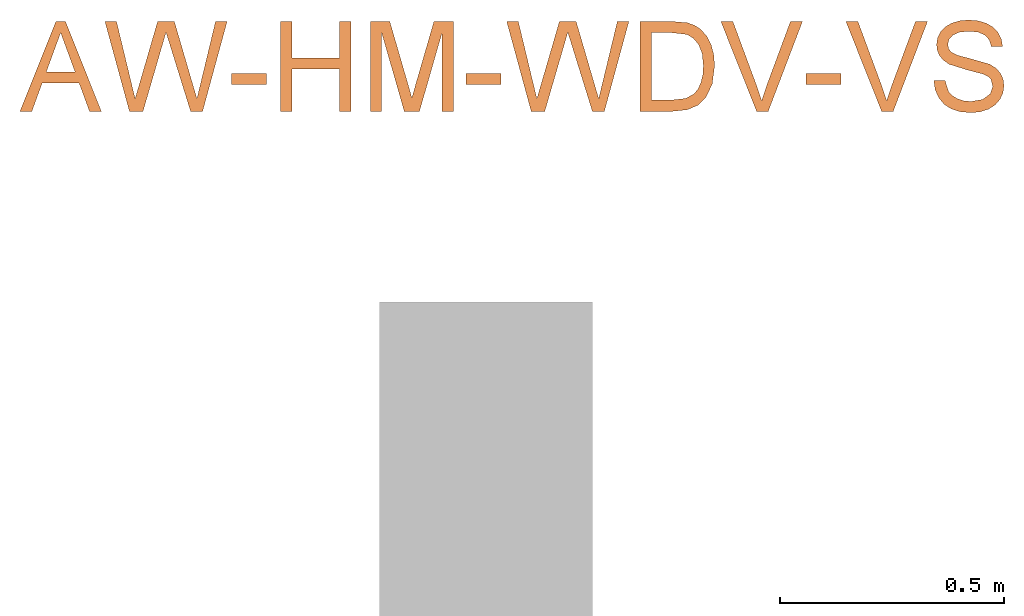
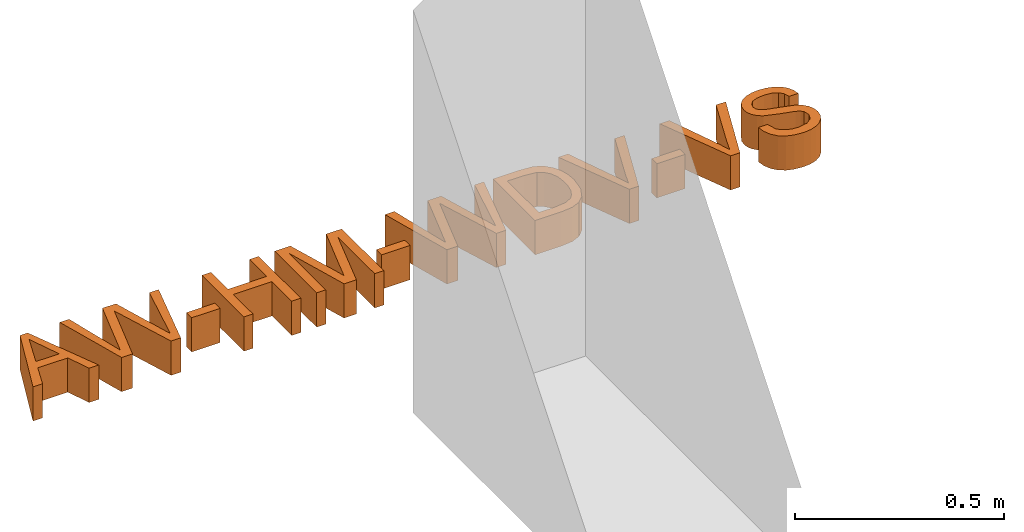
# Not in any storey, part 2 of 2: 1 proxy.
"""IFC2X3 model written with IfcOpenShell, lengths in metres."""

import ifcopenshell
import ifcopenshell.guid

model = None  # the IFC model being written
_history = None  # IfcOwnerHistory: only IFC2X3 demands one
_inside = {}  # id of a spatial element -> (the spatial element, [elements in it])
_under = {}  # id of a project, library or spatial element -> (it, [spatial elements below it])
_declared = {}  # id of a project -> (the project, [libraries it declares])
_typed = {}  # id of a type object -> (the type object, [elements of that type])
_made_of = {}  # id of a material, layer set ... -> (it, [elements and type objects made of it])


def new_model(schema):
    """Start an empty IFC model of exactly this schema.

    Asked for "IFC4X3", IfcOpenShell would pick the latest addendum, in which some entities
    have other attributes; the version numbers below select the first issue.
    IFC2X3 requires an IfcOwnerHistory on every rooted entity: one is made here for all.
    """
    global model, _history
    if schema == "IFC4X3":
        model = ifcopenshell.file(schema_version=(4, 3, 0, 0))
    else:
        model = ifcopenshell.file(schema=schema)
    _inside.clear()
    _under.clear()
    _declared.clear()
    _typed.clear()
    _made_of.clear()
    _history = None
    if model.schema == "IFC2X3":
        org = make("IfcOrganization", Name="unknown")
        user = make(
            "IfcPersonAndOrganization",
            ThePerson=make("IfcPerson", FamilyName="unknown"),
            TheOrganization=org,
        )
        app = make(
            "IfcApplication",
            ApplicationDeveloper=org,
            Version="unknown",
            ApplicationFullName="unknown",
            ApplicationIdentifier="unknown",
        )
        _history = make(
            "IfcOwnerHistory",
            OwningUser=user,
            OwningApplication=app,
            ChangeAction="ADDED",
            CreationDate=0,
        )
    return model


def make(cls, **values):
    """One entity of the class cls with the attributes given. An attribute that is None is left unset."""
    return model.create_entity(
        cls, **{name: value for name, value in values.items() if value is not None}
    )


def entity(cls, *values):
    """Any entity or typed value of the class cls, its attributes in the order of the schema. None: left unset."""
    e = model.create_entity(cls)
    for i, value in enumerate(values):
        if value is not None:
            e[i] = value
    return e


def rooted(cls, **values):
    """An entity with a GlobalId (a new one), such as an element, a storey or a relation."""
    return make(cls, GlobalId=ifcopenshell.guid.new(), OwnerHistory=_history, **values)


def si_unit(unit_type, name, prefix=None):
    """IfcSIUnit, for example si_unit("LENGTHUNIT", "METRE", prefix="MILLI")."""
    return make("IfcSIUnit", UnitType=unit_type, Prefix=prefix, Name=name)


def converted_unit(unit_type, name, factor, base, dimensions=None, offset=None):
    """IfcConversionBasedUnit, such as the inch: factor (a typed value) times the base unit."""
    return make(
        "IfcConversionBasedUnit"
        if offset is None
        else "IfcConversionBasedUnitWithOffset",
        ConversionOffset=offset,
        Dimensions=None
        if dimensions is None
        else entity("IfcDimensionalExponents", *dimensions),
        UnitType=unit_type,
        Name=name,
        ConversionFactor=make(
            "IfcMeasureWithUnit", ValueComponent=factor, UnitComponent=base
        ),
    )


def derived_unit(unit_type, elements):
    """IfcDerivedUnit: a product of units, each with its exponent."""
    return make(
        "IfcDerivedUnit",
        Elements=[
            make("IfcDerivedUnitElement", Unit=unit, Exponent=power)
            for unit, power in elements
        ],
        UnitType=unit_type,
    )


def assignment(units):
    """IfcUnitAssignment: the units of a project."""
    return None if units is None else make("IfcUnitAssignment", Units=units)


def point(xyz):
    """IfcCartesianPoint."""
    return None if xyz is None else make("IfcCartesianPoint", Coordinates=xyz)


def direction(xyz):
    """IfcDirection."""
    return None if xyz is None else make("IfcDirection", DirectionRatios=xyz)


def frame(location, z_axis=None, x_axis=None):
    """IfcAxis2Placement3D, a coordinate frame: its origin and axes. An axis left out is left unset."""
    return make(
        "IfcAxis2Placement3D",
        Location=point(location),
        Axis=direction(z_axis),
        RefDirection=direction(x_axis),
    )


def frame_2d(location, x_axis=None):
    """IfcAxis2Placement2D, a coordinate frame in the plane: its origin and x axis."""
    return make(
        "IfcAxis2Placement2D", Location=point(location), RefDirection=direction(x_axis)
    )


def origin():
    """The frame at (0, 0, 0) with its axes left unset."""
    return frame((0.0, 0.0, 0.0))


def place(relative_to, where):
    """IfcLocalPlacement: puts the frame where relative to a parent placement (None: the world)."""
    return make(
        "IfcLocalPlacement", PlacementRelTo=relative_to, RelativePlacement=where
    )


def context(
    kind, dimensions, precision=None, world=None, true_north=None, identifier=None
):
    """IfcGeometricRepresentationContext, for example the 3D "Model" context."""
    return make(
        "IfcGeometricRepresentationContext",
        ContextIdentifier=identifier,
        ContextType=kind,
        CoordinateSpaceDimension=dimensions,
        Precision=precision,
        WorldCoordinateSystem=world,
        TrueNorth=true_north,
    )


def subcontext(parent, identifier, kind, view, scale=None):
    """IfcGeometricRepresentationSubContext, for example "Body" below "Model"."""
    return make(
        "IfcGeometricRepresentationSubContext",
        ContextIdentifier=identifier,
        ContextType=kind,
        ParentContext=parent,
        TargetScale=scale,
        TargetView=view,
    )


def project(units=None, contexts=None):
    """IfcProject with its units and contexts."""
    return rooted(
        "IfcProject",
        Name="project",
        RepresentationContexts=contexts,
        UnitsInContext=assignment(units),
    )


def spatial(cls, under=None, at=None, **own):
    """A site, building, storey or space (cls), placed at a placement, below another one or the project."""
    s = rooted(cls, ObjectPlacement=at, **own)
    if under is not None:
        _under.setdefault(under.id(), (under, []))[1].append(s)
    return s


def polyline(points):
    """IfcPolyline through the points."""
    return make("IfcPolyline", Points=[point(p) for p in points])


def profile(cls, at=None, kind="AREA", **sizes):
    """A parametric profile (cls). Its sizes go by their IFC names, for example OverallWidth=200.0."""
    return make(cls, ProfileType=kind, Position=at, **sizes)


def rectangle(**sizes):
    """IfcRectangleProfileDef."""
    return profile("IfcRectangleProfileDef", **sizes)


def outline(outer, holes=None, kind="AREA"):
    """IfcArbitraryClosedProfileDef: a profile drawn as a closed curve; with holes, ...WithVoids."""
    if holes is None:
        return make("IfcArbitraryClosedProfileDef", ProfileType=kind, OuterCurve=outer)
    return make(
        "IfcArbitraryProfileDefWithVoids",
        ProfileType=kind,
        OuterCurve=outer,
        InnerCurves=holes,
    )


def extrude(swept, where, along, depth):
    """IfcExtrudedAreaSolid: the profile swept, set in the frame where, extruded along a direction by depth."""
    return make(
        "IfcExtrudedAreaSolid",
        SweptArea=swept,
        Position=where,
        ExtrudedDirection=direction(along),
        Depth=depth,
    )


def shape(context_of_items, identifier, shape_type, items):
    """IfcShapeRepresentation: the items that make up one representation, for example the "Body"."""
    return make(
        "IfcShapeRepresentation",
        ContextOfItems=context_of_items,
        RepresentationIdentifier=identifier,
        RepresentationType=shape_type,
        Items=items,
    )


def made_of(thing, what):
    """Note that an element or type object is made of a material, layer set ...; save() writes the relation."""
    if what is not None:
        _made_of.setdefault(what.id(), (what, []))[1].append(thing)
    return thing


def type_object(cls, material=None, **own):
    """A type object (cls), such as IfcWallType, which elements share."""
    return made_of(rooted(cls, **own), material)


def element(
    cls,
    number,
    at=None,
    inside=None,
    cuts=None,
    type_object=None,
    material=None,
    context=None,
    identifier="Body",
    shape_type=None,
    held_by="IfcProductDefinitionShape",
    body=None,
    shapes=None,
    **own,
):
    """One element of the class cls, such as IfcWall. Its Tag is "e" and its number.

    at: its placement. inside: the storey or other place that contains it. cuts: it is an
    opening in that element (IfcRelVoidsElement). A single representation is given by context,
    identifier, shape_type and body (its items); several are given by shapes. held_by: the class
    of the entity that holds the representations. save() writes the other relations.
    """
    e = rooted(cls, Tag="e%d" % number, ObjectPlacement=at, **own)
    if body is not None:
        shapes = [shape(context, identifier, shape_type, body)]
    if shapes is not None:
        e.Representation = make(held_by, Representations=shapes)
    if inside is not None:
        _inside.setdefault(inside.id(), (inside, []))[1].append(e)
    if cuts is not None:
        rooted(
            "IfcRelVoidsElement", RelatingBuildingElement=cuts, RelatedOpeningElement=e
        )
    if type_object is not None:
        _typed.setdefault(type_object.id(), (type_object, []))[1].append(e)
    return made_of(e, material)


def aggregate(whole, parts):
    """IfcRelAggregates: a whole, such as a stair, and the parts it consists of."""
    return rooted("IfcRelAggregates", RelatingObject=whole, RelatedObjects=parts)


def save(model, path):
    """Write the relations noted so far, then the file.

    IfcRelAggregates (storeys below a building ...), IfcRelContainedInSpatialStructure (elements
    in a storey), IfcRelDefinesByType, IfcRelAssociatesMaterial and IfcRelDeclares: one each for
    every whole, place, type object, material and project.
    """
    for whole, parts in _under.values():
        aggregate(whole, parts)
    for where, things in _inside.values():
        rooted(
            "IfcRelContainedInSpatialStructure",
            RelatedElements=things,
            RelatingStructure=where,
        )
    for kind, things in _typed.values():
        rooted("IfcRelDefinesByType", RelatedObjects=things, RelatingType=kind)
    for what, things in _made_of.values():
        rooted("IfcRelAssociatesMaterial", RelatedObjects=things, RelatingMaterial=what)
    for by, libraries in _declared.values():
        rooted("IfcRelDeclares", RelatingContext=by, RelatedDefinitions=libraries)
    model.write(path)


model = new_model("IFC2X3")

# Units and contexts
model_context = context("Model", 3, precision=1e-05, world=origin(), true_north=direction((6.123031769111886e-17, 1.0)))
body_context = subcontext(model_context, "Body", "Model", "MODEL_VIEW")
ifc_project = project(units=[si_unit("LENGTHUNIT", "METRE"), si_unit("AREAUNIT", "SQUARE_METRE"), si_unit("VOLUMEUNIT", "CUBIC_METRE"), converted_unit("PLANEANGLEUNIT", "DEGREE", entity("IfcRatioMeasure", 0.017453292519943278), si_unit("PLANEANGLEUNIT", "RADIAN"), dimensions=[0, 0, 0, 0, 0, 0, 0]), si_unit("MASSUNIT", "GRAM", prefix="KILO"), derived_unit("MASSDENSITYUNIT", [(si_unit("MASSUNIT", "GRAM", prefix="KILO"), 1), (si_unit("LENGTHUNIT", "METRE"), -3)]), derived_unit("MOMENTOFINERTIAUNIT", [(si_unit("LENGTHUNIT", "METRE"), 4)]), si_unit("TIMEUNIT", "SECOND"), si_unit("FREQUENCYUNIT", "HERTZ"), si_unit("THERMODYNAMICTEMPERATUREUNIT", "DEGREE_CELSIUS"), derived_unit("THERMALTRANSMITTANCEUNIT", [(si_unit("MASSUNIT", "GRAM", prefix="KILO"), 1), (si_unit("THERMODYNAMICTEMPERATUREUNIT", "KELVIN"), -1), (si_unit("TIMEUNIT", "SECOND"), -3)]), derived_unit("VOLUMETRICFLOWRATEUNIT", [(si_unit("LENGTHUNIT", "METRE"), 3), (si_unit("TIMEUNIT", "SECOND"), -1)]), derived_unit("MASSFLOWRATEUNIT", [(si_unit("MASSUNIT", "GRAM", prefix="KILO"), 1), (si_unit("TIMEUNIT", "SECOND"), -1)]), derived_unit("ROTATIONALFREQUENCYUNIT", [(si_unit("TIMEUNIT", "SECOND"), -1)]), si_unit("ELECTRICCURRENTUNIT", "AMPERE"), si_unit("ELECTRICVOLTAGEUNIT", "VOLT"), si_unit("POWERUNIT", "WATT"), si_unit("FORCEUNIT", "NEWTON", prefix="KILO"), si_unit("ILLUMINANCEUNIT", "LUX"), si_unit("LUMINOUSFLUXUNIT", "LUMEN"), si_unit("LUMINOUSINTENSITYUNIT", "CANDELA"), derived_unit("USERDEFINED", [(si_unit("MASSUNIT", "GRAM", prefix="KILO"), -1), (si_unit("LENGTHUNIT", "METRE"), -2), (si_unit("TIMEUNIT", "SECOND"), 3), (si_unit("LUMINOUSFLUXUNIT", "LUMEN"), 1)]), derived_unit("SOUNDPOWERUNIT", [(si_unit("MASSUNIT", "GRAM", prefix="KILO"), 1), (si_unit("LENGTHUNIT", "METRE"), 2), (si_unit("TIMEUNIT", "SECOND"), -3)]), derived_unit("SOUNDPRESSUREUNIT", [(si_unit("MASSUNIT", "GRAM", prefix="KILO"), 1), (si_unit("LENGTHUNIT", "METRE"), -1), (si_unit("TIMEUNIT", "SECOND"), -2)]), derived_unit("LINEARVELOCITYUNIT", [(si_unit("LENGTHUNIT", "METRE"), 1), (si_unit("TIMEUNIT", "SECOND"), -1)]), si_unit("PRESSUREUNIT", "PASCAL"), derived_unit("USERDEFINED", [(si_unit("LENGTHUNIT", "METRE"), -2), (si_unit("MASSUNIT", "GRAM", prefix="KILO"), 1), (si_unit("TIMEUNIT", "SECOND"), -2)]), derived_unit("LINEARFORCEUNIT", [(si_unit("MASSUNIT", "GRAM", prefix="KILO"), 1), (si_unit("LENGTHUNIT", "METRE"), 1), (si_unit("TIMEUNIT", "SECOND"), -2), (si_unit("LENGTHUNIT", "METRE"), -1)]), derived_unit("PLANARFORCEUNIT", [(si_unit("MASSUNIT", "GRAM", prefix="KILO"), 1), (si_unit("LENGTHUNIT", "METRE"), 1), (si_unit("TIMEUNIT", "SECOND"), -2), (si_unit("LENGTHUNIT", "METRE"), -2)])], contexts=[model_context])

# Site
site_placement = place(None, origin())
site = spatial("IfcSite", under=ifc_project, at=site_placement, Name="Default", CompositionType="ELEMENT")

# Proxy
building_element_proxy_type = type_object("IfcBuildingElementProxyType", Name="Modelltext:600mm Arial", PredefinedType="NOTDEFINED")
proxy_placement = place(site_placement, origin())
element("IfcBuildingElementProxy", 1, at=proxy_placement, inside=site, type_object=building_element_proxy_type, Name="Modelltext:600mm Arial", ObjectType="Modelltext:600mm Arial", context=body_context, shape_type="SweptSolid", body=[
    extrude(outline(polyline([(-0.09088524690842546, -0.06592445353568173), (-0.06434869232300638, -0.06592445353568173), (-0.04139285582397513, -0.003139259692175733), (0.041356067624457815, -0.003139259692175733), (0.06436095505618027, -0.06592445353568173), (0.09089750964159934, -0.06592445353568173), (0.010699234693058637, 0.13498816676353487), (-0.010686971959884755, 0.13498816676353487), (-0.09088524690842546, -0.06592445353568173)]), holes=[polyline([(-0.032171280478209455, 0.0219748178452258), (-0.012501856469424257, 0.07568558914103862), (6.131366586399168e-06, 0.10987408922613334), (0.014083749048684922, 0.0713691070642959), (0.032183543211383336, 0.0219748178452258), (-0.032171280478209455, 0.0219748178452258)])]), frame((6.714958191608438, 24.264820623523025, 0.0)), (0.0, 0.0, 1.0), 0.1),
    extrude(outline(polyline([(-0.08129804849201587, -0.10770552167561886), (-0.050984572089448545, -0.10770552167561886), (-0.007083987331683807, 0.042880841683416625), (0.00046985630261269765, 0.06892688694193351), (0.007189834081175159, 0.047295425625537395), (0.05535784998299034, -0.10770552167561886), (0.08218871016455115, -0.10770552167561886), (0.1370276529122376, 0.09320709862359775), (0.11112876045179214, 0.09320709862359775), (0.07904945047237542, -0.040015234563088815), (0.06953356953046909, -0.07959933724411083), (0.04800021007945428, -0.005924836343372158), (0.019060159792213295, 0.09320709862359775), (-0.018267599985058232, 0.09320709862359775), (-0.058096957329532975, -0.043546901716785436), (-0.06859385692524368, -0.07959933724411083), (-0.07840404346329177, -0.038838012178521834), (-0.11018904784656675, 0.09320709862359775), (-0.1360879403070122, 0.09320709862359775), (-0.08129804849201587, -0.10770552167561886)])), frame((6.9499389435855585, 24.306601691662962, 0.0)), (0.0, 0.0, 1.0), 0.1),
    extrude(rectangle(XDim=0.0784814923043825, YDim=0.02511407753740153, at=frame_2d((0.0, -2.1658022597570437e-15), x_axis=(1.0, 0.0))), frame((7.135625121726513, 24.271099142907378, 0.0)), (0.0, 0.0, 1.0), 0.1),
    extrude(outline(polyline([(-0.0784814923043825, -0.10254914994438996), (-0.05336741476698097, -0.10254914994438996), (-0.05336741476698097, -0.008371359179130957), (0.053367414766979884, -0.008371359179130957), (0.053367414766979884, -0.10254914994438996), (0.0784814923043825, -0.10254914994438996), (0.0784814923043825, 0.09836347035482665), (0.053367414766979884, 0.09836347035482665), (0.053367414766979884, 0.016742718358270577), (-0.05336741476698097, 0.016742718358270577), (-0.05336741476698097, 0.09836347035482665), (-0.0784814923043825, 0.09836347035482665), (-0.0784814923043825, -0.10254914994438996)])), frame((7.284739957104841, 24.301445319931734, 0.0)), (0.0, 0.0, 1.0), 0.1),
    extrude(outline(polyline([(-0.09265394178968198, -0.08706867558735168), (-0.06753986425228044, -0.08706867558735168), (-0.06753986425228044, 0.08872986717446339), (-0.017066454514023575, -0.08706867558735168), (0.01697489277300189, -0.08706867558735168), (0.06744830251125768, 0.08872986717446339), (0.06744830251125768, -0.08706867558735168), (0.0925623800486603, -0.08706867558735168), (0.0925623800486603, 0.11384394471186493), (0.049348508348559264, 0.11384394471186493), (0.008930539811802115, -0.02531355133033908), (-4.5780870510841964e-05, -0.057343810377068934), (-0.00833538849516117, -0.027766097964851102), (-0.04944007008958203, 0.11384394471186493), (-0.09265394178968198, 0.11384394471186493), (-0.09265394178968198, -0.08706867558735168)])), frame((7.499825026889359, 24.285964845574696, 0.0)), (0.0, 0.0, 1.0), 0.1),
    extrude(rectangle(XDim=0.0784814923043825, YDim=0.02511407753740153, at=frame_2d((0.0, -2.1658022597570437e-15), x_axis=(1.0, 0.0))), frame((7.659881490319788, 24.271099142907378, 0.0)), (0.0, 0.0, 1.0), 0.1),
    extrude(outline(polyline([(-0.08129804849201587, -0.10770552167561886), (-0.050984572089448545, -0.10770552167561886), (-0.0070839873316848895, 0.042880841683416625), (0.00046985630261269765, 0.06892688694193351), (0.007189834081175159, 0.047295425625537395), (0.05535784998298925, -0.10770552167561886), (0.08218871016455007, -0.10770552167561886), (0.1370276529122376, 0.09320709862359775), (0.11112876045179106, 0.09320709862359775), (0.07904945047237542, -0.040015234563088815), (0.06953356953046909, -0.07959933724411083), (0.048000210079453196, -0.005924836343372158), (0.019060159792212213, 0.09320709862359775), (-0.018267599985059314, 0.09320709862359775), (-0.058096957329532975, -0.043546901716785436), (-0.06859385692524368, -0.07959933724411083), (-0.07840404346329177, -0.038838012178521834), (-0.11018904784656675, 0.09320709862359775), (-0.1360879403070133, 0.09320709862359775), (-0.08129804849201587, -0.10770552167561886)])), frame((7.847767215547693, 24.306601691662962, 0.0)), (0.0, 0.0, 1.0), 0.1),
    extrude(outline(polyline([(-0.11220564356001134, -0.1087810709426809), (-0.03956121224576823, -0.1087810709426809), (-0.007261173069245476, -0.10534750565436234), (0.016749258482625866, -0.09526753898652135), (0.03509430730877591, -0.0770451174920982), (0.04882856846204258, -0.0477862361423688), (0.0541751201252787, -0.007245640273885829), (0.05220082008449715, 0.018138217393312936), (0.04627791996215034, 0.04052996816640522), (0.03638189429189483, 0.05956173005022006), (0.022488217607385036, 0.0748656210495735), (0.008974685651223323, 0.08365800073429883), (-0.0070404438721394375, 0.08923754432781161), (-0.042896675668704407, 0.09213154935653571), (-0.11220564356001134, 0.09213154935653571), (-0.11220564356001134, -0.1087810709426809)]), holes=[polyline([(-0.08709156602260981, -0.08366699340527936), (-0.08709156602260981, 0.06701747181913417), (-0.04333813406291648, 0.06701747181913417), (-0.00772715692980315, 0.06299529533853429), (0.006466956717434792, 0.05460758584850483), (0.01834341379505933, 0.04072617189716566), (0.026381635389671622, 0.02051718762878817), (0.02906104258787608, -0.006853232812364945), (0.027693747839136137, -0.027509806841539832), (0.02359186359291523, -0.044843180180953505), (0.01703743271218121, -0.058914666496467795), (0.008312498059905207, -0.06978557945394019), (-0.010326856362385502, -0.08003722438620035), (-0.042651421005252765, -0.08366699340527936), (-0.08709156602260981, -0.08366699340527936)])]), frame((8.122114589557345, 24.307677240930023, 0.0)), (0.0, 0.0, 1.0), 0.1),
    extrude(outline(polyline([(-0.011641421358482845, -0.10439128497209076), (0.014306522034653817, -0.10439128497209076), (0.0908750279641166, 0.09652133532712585), (0.06399511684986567, 0.09652133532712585), (0.010333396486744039, -0.04822796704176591), (-0.0003597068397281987, -0.08084683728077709), (-0.011199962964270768, -0.04822796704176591), (-0.06471453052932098, 0.09652133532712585), (-0.09159444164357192, 0.09652133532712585), (-0.011641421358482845, -0.10439128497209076)])), frame((8.281814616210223, 24.303287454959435, 0.0)), (0.0, 0.0, 1.0), 0.1),
    extrude(rectangle(XDim=0.0784814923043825, YDim=0.02511407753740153, at=frame_2d((1.0824674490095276e-15, -2.1658022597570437e-15), x_axis=(1.0, 0.0))), frame((8.419582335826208, 24.271099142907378, 0.0)), (0.0, 0.0, 1.0), 0.1),
    extrude(outline(polyline([(-0.011641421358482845, -0.10439128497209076), (0.014306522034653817, -0.10439128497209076), (0.0908750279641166, 0.09652133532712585), (0.06399511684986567, 0.09652133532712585), (0.010333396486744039, -0.04822796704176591), (-0.0003597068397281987, -0.08084683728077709), (-0.011199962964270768, -0.04822796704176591), (-0.06471453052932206, 0.09652133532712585), (-0.09159444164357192, 0.09652133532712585), (-0.011641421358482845, -0.10439128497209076)])), frame((8.561208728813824, 24.303287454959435, 0.0)), (0.0, 0.0, 1.0), 0.1),
    extrude(outline(polyline([(0.02184305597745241, -0.08305115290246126), (0.04234334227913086, -0.08305115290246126), (0.06136920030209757, -0.0779015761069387), (0.07782931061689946, -0.06794406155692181), (0.09063235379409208, -0.05352024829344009), (0.09983646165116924, -0.03440318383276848), (0.10549976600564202, -0.010365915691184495), (0.10647807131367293, 0.009748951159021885), (0.1032813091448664, 0.028357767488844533), (0.09615707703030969, 0.04448838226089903), (0.08535297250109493, 0.05716864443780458), (0.07192688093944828, 0.0659642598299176), (0.05693668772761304, 0.07044093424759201), (0.041668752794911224, 0.0707071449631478), (0.027700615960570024, 0.06682859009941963), (0.015123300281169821, 0.05858119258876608), (0.004027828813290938, 0.04574087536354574), (-0.01490402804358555, 0.0036050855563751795), (-0.025816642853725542, -0.021910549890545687), (-0.03474416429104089, -0.03492683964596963), (-0.043295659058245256, -0.03973132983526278), (-0.05313447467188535, -0.04030612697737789), (-0.06392280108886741, -0.03587043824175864), (-0.07211984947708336, -0.026114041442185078), (-0.07639932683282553, -0.010698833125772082), (-0.07543494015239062, 0.01071329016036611), (-0.07024694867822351, 0.03100912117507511), (-0.061584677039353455, 0.04491959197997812), (-0.04948636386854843, 0.052859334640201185), (-0.03399024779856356, 0.05524298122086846), (-0.030339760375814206, 0.08009033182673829), (-0.04721530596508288, 0.0797065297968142), (-0.06289483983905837, 0.07480898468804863), (-0.07660297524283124, 0.06544490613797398), (-0.08756432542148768, 0.05166150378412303), (-0.09557344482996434, 0.034097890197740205), (-0.10042488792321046, 0.013393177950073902), (-0.10157543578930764, -0.006206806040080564), (-0.09906651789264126, -0.024435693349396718), (-0.09285920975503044, -0.04022708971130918), (-0.08291458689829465, -0.052514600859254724), (-0.07029355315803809, -0.06096884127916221), (-0.05605701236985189, -0.0652604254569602), (-0.04278306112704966, -0.06543199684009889), (-0.03033211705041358, -0.06192547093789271), (-0.018913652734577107, -0.054648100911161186), (-0.008737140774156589, -0.04350713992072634), (0.009238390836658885, -0.006362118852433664), (0.02404131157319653, 0.02842309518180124), (0.030749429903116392, 0.03827023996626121), (0.03780572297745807, 0.04365383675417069), (0.05391709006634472, 0.04550089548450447), (0.06977789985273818, 0.037543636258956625), (0.07978673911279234, 0.01894415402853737), (0.08050981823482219, -0.007686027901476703), (0.0767013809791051, -0.02318960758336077), (0.07013863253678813, -0.036602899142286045), (0.06151941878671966, -0.0470988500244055), (0.051541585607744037, -0.05385040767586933), (0.025493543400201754, -0.05820380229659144), (0.02184305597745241, -0.08305115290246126)])), frame((8.745008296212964, 24.3016429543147, 0.0), z_axis=(0.0, 0.0, 1.0), x_axis=(0.14535622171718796, -0.9893793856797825, 0.0)), (0.0, 0.0, 1.0), 0.1),
])

save(model, "model.ifc")
